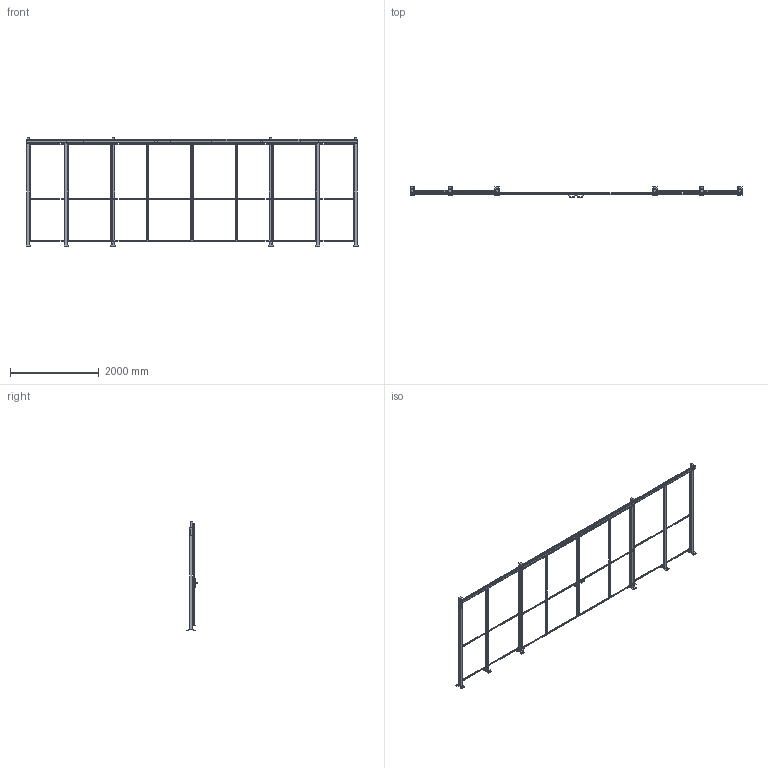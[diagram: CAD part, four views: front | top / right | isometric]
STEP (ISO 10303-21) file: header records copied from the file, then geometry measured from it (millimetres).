
FILE_DESCRIPTION(/* description */ (''),/* implementation_level */ '2;1');
FILE_NAME(/* name */ 'C:\SafeGuarding\ELABORATI\HOR§VED_2025-03-31-13-58-40.stp',/* time_stamp */ '2025-03-31T13:58:42+02:00',/* author */ ('admin'),/* organization */ (''),/* preprocessor_version */ 'ST-DEVELOPER v18.1',/* originating_system */ 'AutoCAD Mechanical',/* authorisation */ '');
FILE_SCHEMA (('AUTOMOTIVE_DESIGN { 1 0 10303 214 3 1 1 }'));
Length unit declared in the file: millimetre
Products named in the file (4): Product; R_VFPA.REPE20.08002200; R_VFPA.REPE20.10002200; P_VFMA.V260SDU.2320
Assembly tree (14 placements, depth 2):
  Product
    R_VFPA.REPE20.08002200  x4
    R_VFPA.REPE20.10002200  x4
    P_VFMA.V260SDU.2320  x6
Bounding box: 7500 x 235.91 x 2454 mm (x, y, z)
Volume: 88823794 mm3; surface area: 12672103.4 mm2
Topology: 84 solids, 106 shells, 874 faces, 3003 edges, 3298 vertices
Faces by surface type: plane 810, cylinder 64
Full cylindrical faces by diameter (mm): 11 x24, 12 x4, 14 x4, 15 x8, 40 x8
Entity records: 19282 total; most frequent: CARTESIAN_POINT 4101, DIRECTION 2869, ORIENTED_EDGE 2844, EDGE_CURVE 1520, LINE 1425, VECTOR 1425, VERTEX_POINT 1096, AXIS2_PLACEMENT_3D 722
